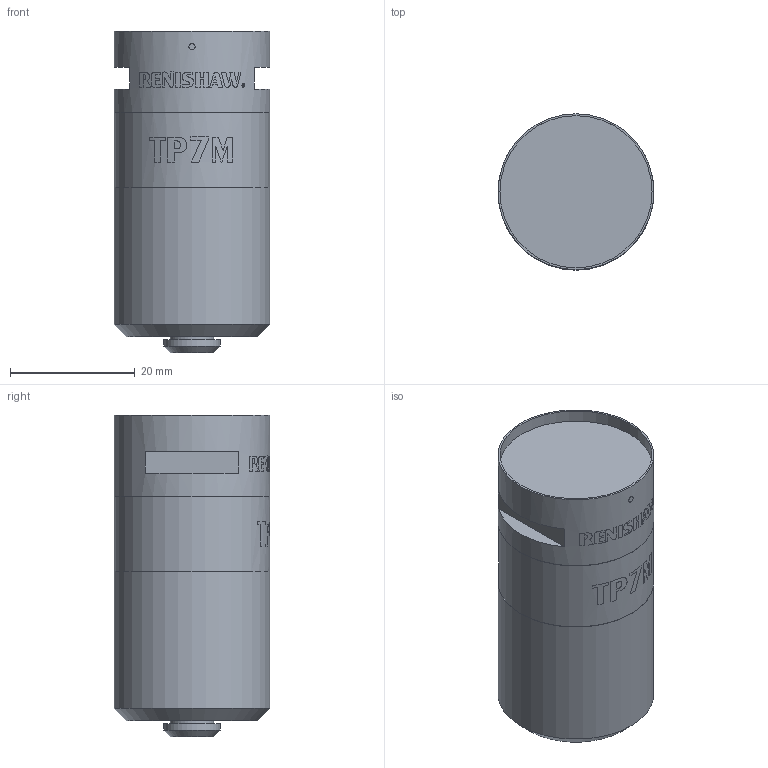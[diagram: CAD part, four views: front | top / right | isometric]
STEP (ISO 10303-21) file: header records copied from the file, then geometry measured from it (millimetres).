
FILE_DESCRIPTION(/* description */ (''),/* implementation_level */ '2;1');
FILE_NAME(/* name */ 'LA-1073-0001#-C.stp',/* time_stamp */ '2012-09-07T10:23:03+01:00',/* author */ (''),/* organization */ (''),/* preprocessor_version */ 'ST-DEVELOPER v11',/* originating_system */ 'SIEMENS PLM Software NX 7.5',/* authorisation */ '');
FILE_SCHEMA (('AUTOMOTIVE_DESIGN { 1 0 10303 214 1 1 1 1 }'));
Length unit declared in the file: millimetre
Products named in the file (1): rt13371Ayv41
Bounding box: 25 x 25 x 51.6 mm (x, y, z)
Volume: 22783 mm3; surface area: 5180.8 mm2
Topology: 1 solids, 1 shells, 42 faces, 221 edges, 207 vertices
Faces by surface type: cylinder 26, plane 14, cone 2
Full cylindrical faces by diameter (mm): 4 x1, 7 x1, 9 x1, 24.4 x1, 24.9 x1, 25 x2
Entity records: 2919 total; most frequent: CARTESIAN_POINT 1067, ORIENTED_EDGE 420, EDGE_CURVE 210, VERTEX_POINT 205, B_SPLINE_CURVE_WITH_KNOTS 168, DIRECTION 159, EDGE_LOOP 77, AXIS2_PLACEMENT_3D 74
